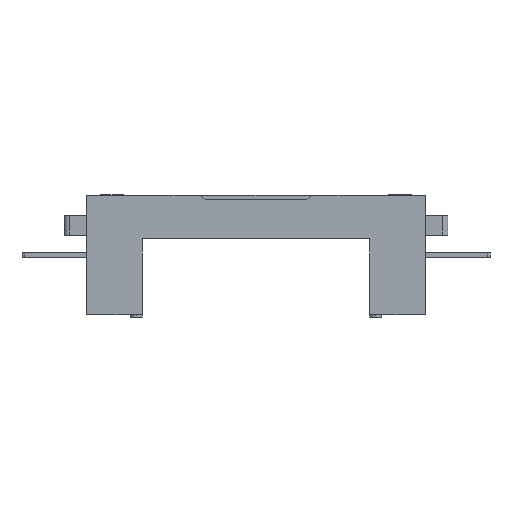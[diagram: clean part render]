
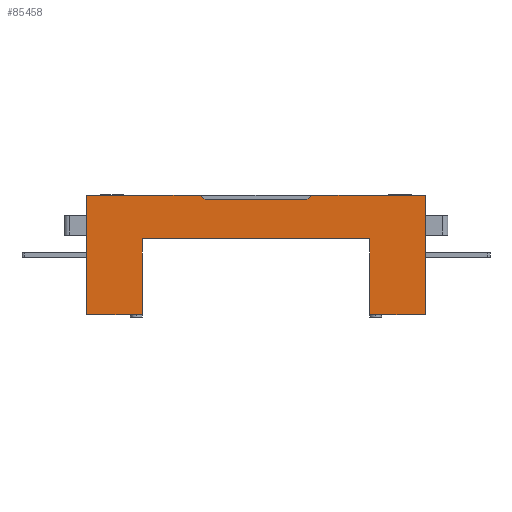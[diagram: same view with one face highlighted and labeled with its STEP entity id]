
A CAD part, left-side view. The second image highlights one B-rep face of the part: STEP entity #85458.
In plain terms, the highlighted planar face has unit normal (-1, 0, 0) as drawn and (0, 0, 1) by its records, which use the part's own axes.
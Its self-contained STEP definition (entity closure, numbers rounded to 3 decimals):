
#732 = LINE ( 'NONE', #15689, #41106 ) ;
#3249 = EDGE_CURVE ( 'NONE', #46130, #80614, #61259, .T. ) ;
#4201 = DIRECTION ( 'NONE',  ( 1., 0., 0. ) ) ;
#4855 = VECTOR ( 'NONE', #78857, 1000. ) ;
#4866 = LINE ( 'NONE', #49263, #8658 ) ;
#5348 = DIRECTION ( 'NONE',  ( -0.743, 0.669, 0. ) ) ;
#6035 = EDGE_CURVE ( 'NONE', #56708, #49228, #93320, .T. ) ;
#6179 = ORIENTED_EDGE ( 'NONE', *, *, #68768, .F. ) ;
#7005 = LINE ( 'NONE', #69346, #78709 ) ;
#7027 = VECTOR ( 'NONE', #4201, 1000. ) ;
#7912 = VERTEX_POINT ( 'NONE', #71233 ) ;
#7959 = CARTESIAN_POINT ( 'NONE',  ( 20.5, 1.8, 187.75 ) ) ;
#8658 = VECTOR ( 'NONE', #48774, 1000. ) ;
#8877 = ORIENTED_EDGE ( 'NONE', *, *, #56270, .F. ) ;
#12073 = DIRECTION ( 'NONE',  ( 1., 0., 0. ) ) ;
#13006 = ORIENTED_EDGE ( 'NONE', *, *, #96466, .T. ) ;
#15689 = CARTESIAN_POINT ( 'NONE',  ( -20.5, 1.8, 187.75 ) ) ;
#16043 = VECTOR ( 'NONE', #33762, 1000. ) ;
#16666 = EDGE_CURVE ( 'NONE', #73843, #23891, #77399, .T. ) ;
#18275 = CARTESIAN_POINT ( 'NONE',  ( -68.25, 0., 187.75 ) ) ;
#19071 = VECTOR ( 'NONE', #59356, 1000. ) ;
#20392 = CARTESIAN_POINT ( 'NONE',  ( 22.5, 0., 187.75 ) ) ;
#21992 = EDGE_LOOP ( 'NONE', ( #60602, #6179, #13006, #60160, #43228, #8877, #63601, #59444, #97698, #69298, #49344, #83642 ) ) ;
#23243 = FACE_OUTER_BOUND ( 'NONE', #21992, .T. ) ;
#23891 = VERTEX_POINT ( 'NONE', #77113 ) ;
#23956 = VERTEX_POINT ( 'NONE', #92063 ) ;
#25515 = CARTESIAN_POINT ( 'NONE',  ( -45.75, 17.5, 187.75 ) ) ;
#26272 = LINE ( 'NONE', #79626, #16043 ) ;
#30265 = EDGE_CURVE ( 'NONE', #80614, #66230, #7005, .T. ) ;
#31365 = EDGE_CURVE ( 'NONE', #49228, #47459, #79994, .T. ) ;
#31608 = VERTEX_POINT ( 'NONE', #94698 ) ;
#32862 = VECTOR ( 'NONE', #5348, 1000. ) ;
#33762 = DIRECTION ( 'NONE',  ( 0., -1., 0. ) ) ;
#34875 = DIRECTION ( 'NONE',  ( 0., 1., 0. ) ) ;
#35605 = VECTOR ( 'NONE', #39009, 1000. ) ;
#36416 = CARTESIAN_POINT ( 'NONE',  ( -68.25, 48., 187.75 ) ) ;
#37327 = DIRECTION ( 'NONE',  ( 0., -1., 0. ) ) ;
#39009 = DIRECTION ( 'NONE',  ( -1., 0., 0. ) ) ;
#39395 = CARTESIAN_POINT ( 'NONE',  ( -22.5, 0., 187.75 ) ) ;
#41106 = VECTOR ( 'NONE', #52102, 1000. ) ;
#41461 = CARTESIAN_POINT ( 'NONE',  ( 45.75, 17.5, 187.75 ) ) ;
#43228 = ORIENTED_EDGE ( 'NONE', *, *, #73753, .F. ) ;
#44163 = AXIS2_PLACEMENT_3D ( 'NONE', #53164, #45693, #76113 ) ;
#45693 = DIRECTION ( 'NONE',  ( 0., 0., -1. ) ) ;
#46130 = VERTEX_POINT ( 'NONE', #95244 ) ;
#47459 = VERTEX_POINT ( 'NONE', #41461 ) ;
#47470 = VECTOR ( 'NONE', #34875, 1000. ) ;
#48774 = DIRECTION ( 'NONE',  ( 1., 0., 0. ) ) ;
#49228 = VERTEX_POINT ( 'NONE', #86454 ) ;
#49263 = CARTESIAN_POINT ( 'NONE',  ( -68.25, 0., 187.75 ) ) ;
#49344 = ORIENTED_EDGE ( 'NONE', *, *, #30265, .T. ) ;
#49744 = LINE ( 'NONE', #81645, #32862 ) ;
#52102 = DIRECTION ( 'NONE',  ( -0.743, -0.669, 0. ) ) ;
#52854 = VERTEX_POINT ( 'NONE', #20392 ) ;
#53164 = CARTESIAN_POINT ( 'NONE',  ( -68.25, 48., 187.75 ) ) ;
#53263 = CARTESIAN_POINT ( 'NONE',  ( -68.25, 48., 187.75 ) ) ;
#53580 = EDGE_CURVE ( 'NONE', #46130, #56708, #64448, .T. ) ;
#56270 = EDGE_CURVE ( 'NONE', #47459, #23956, #58788, .T. ) ;
#56708 = VERTEX_POINT ( 'NONE', #75090 ) ;
#56974 = CARTESIAN_POINT ( 'NONE',  ( -68.25, 48., 187.75 ) ) ;
#58788 = LINE ( 'NONE', #72760, #47470 ) ;
#59356 = DIRECTION ( 'NONE',  ( 1., 0., 0. ) ) ;
#59444 = ORIENTED_EDGE ( 'NONE', *, *, #6035, .F. ) ;
#60160 = ORIENTED_EDGE ( 'NONE', *, *, #73174, .F. ) ;
#60602 = ORIENTED_EDGE ( 'NONE', *, *, #16666, .F. ) ;
#60682 = PLANE ( 'NONE',  #44163 ) ;
#61259 = LINE ( 'NONE', #53263, #97021 ) ;
#63601 = ORIENTED_EDGE ( 'NONE', *, *, #31365, .F. ) ;
#64073 = CARTESIAN_POINT ( 'NONE',  ( 45.75, 17.5, 187.75 ) ) ;
#64448 = LINE ( 'NONE', #56974, #83937 ) ;
#66230 = VERTEX_POINT ( 'NONE', #39395 ) ;
#68768 = EDGE_CURVE ( 'NONE', #52854, #73843, #49744, .T. ) ;
#69298 = ORIENTED_EDGE ( 'NONE', *, *, #3249, .T. ) ;
#69346 = CARTESIAN_POINT ( 'NONE',  ( -68.25, 0., 187.75 ) ) ;
#69930 = CARTESIAN_POINT ( 'NONE',  ( 20.5, 1.8, 187.75 ) ) ;
#70525 = EDGE_CURVE ( 'NONE', #23891, #66230, #732, .T. ) ;
#71233 = CARTESIAN_POINT ( 'NONE',  ( 68.25, 48., 187.75 ) ) ;
#72760 = CARTESIAN_POINT ( 'NONE',  ( 45.75, 17.5, 187.75 ) ) ;
#73174 = EDGE_CURVE ( 'NONE', #7912, #31608, #26272, .T. ) ;
#73753 = EDGE_CURVE ( 'NONE', #23956, #7912, #82290, .T. ) ;
#73843 = VERTEX_POINT ( 'NONE', #7959 ) ;
#75090 = CARTESIAN_POINT ( 'NONE',  ( -45.75, 48., 187.75 ) ) ;
#76113 = DIRECTION ( 'NONE',  ( 0., -1., 0. ) ) ;
#77113 = CARTESIAN_POINT ( 'NONE',  ( -20.5, 1.8, 187.75 ) ) ;
#77399 = LINE ( 'NONE', #69930, #35605 ) ;
#78709 = VECTOR ( 'NONE', #92256, 1000. ) ;
#78857 = DIRECTION ( 'NONE',  ( 0., -1., 0. ) ) ;
#79626 = CARTESIAN_POINT ( 'NONE',  ( 68.25, 48., 187.75 ) ) ;
#79994 = LINE ( 'NONE', #64073, #7027 ) ;
#80614 = VERTEX_POINT ( 'NONE', #18275 ) ;
#81645 = CARTESIAN_POINT ( 'NONE',  ( 22.5, 0., 187.75 ) ) ;
#82290 = LINE ( 'NONE', #36416, #19071 ) ;
#83642 = ORIENTED_EDGE ( 'NONE', *, *, #70525, .F. ) ;
#83937 = VECTOR ( 'NONE', #12073, 1000. ) ;
#85458 = ADVANCED_FACE ( 'NONE', ( #23243 ), #60682, .F. ) ;
#86454 = CARTESIAN_POINT ( 'NONE',  ( -45.75, 17.5, 187.75 ) ) ;
#92063 = CARTESIAN_POINT ( 'NONE',  ( 45.75, 48., 187.75 ) ) ;
#92256 = DIRECTION ( 'NONE',  ( 1., 0., 0. ) ) ;
#93320 = LINE ( 'NONE', #25515, #4855 ) ;
#94698 = CARTESIAN_POINT ( 'NONE',  ( 68.25, 0., 187.75 ) ) ;
#95244 = CARTESIAN_POINT ( 'NONE',  ( -68.25, 48., 187.75 ) ) ;
#96466 = EDGE_CURVE ( 'NONE', #52854, #31608, #4866, .T. ) ;
#97021 = VECTOR ( 'NONE', #37327, 1000. ) ;
#97698 = ORIENTED_EDGE ( 'NONE', *, *, #53580, .F. ) ;
